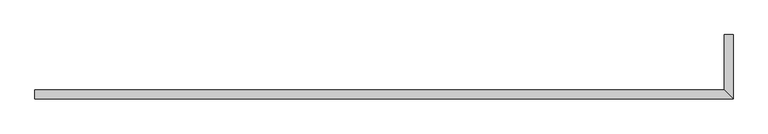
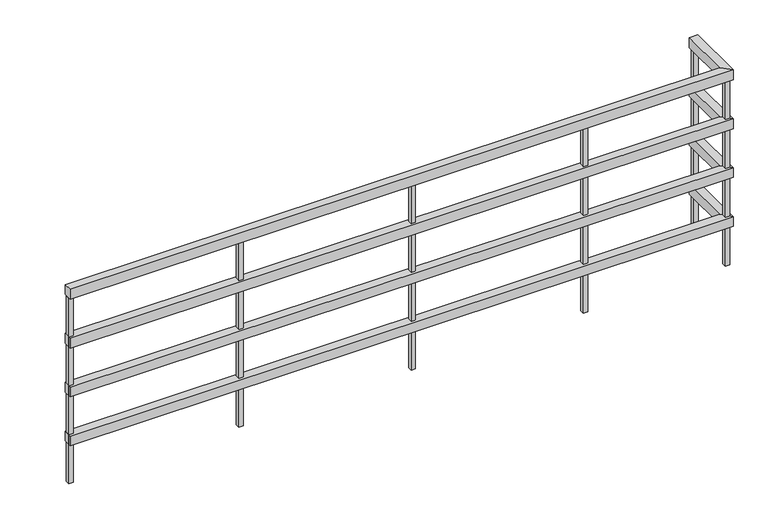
"""IFC4 building model written with IfcOpenShell, lengths in millimetres: railing geometry, RL780-금속재 난간."""

from ifc_helpers import new_model, si_unit, frame, origin, place, context, project, spatial, polyline, outline, extrude, faceted_brep, source, transform, mapped, element, save


def railing_9e2b65a3(model_context):
    return source(origin(), model_context, "Body", "SolidModel", [
        faceted_brep([(15250.0, -125.0, 1250.0), (15250.0, -125.0, 1190.0), (15250.0, -175.0, 1190.0), (15250.0, -175.0, 1250.0), (19100.0, -175.0, 1190.0), (19100.0, -175.0, 1250.0), (19050.0, -125.0, 1250.0), (19050.0, 180.0, 1250.0), (19100.0, 180.0, 1250.0), (19100.0, 180.0, 1190.0), (19050.0, 180.0, 1190.0), (19050.0, -125.0, 1190.0)], [[[0, 1, 2, 3]], [[3, 2, 4, 5]], [[0, 3, 5, 6]], [[7, 8, 9, 10]], [[5, 4, 9, 8]], [[6, 5, 8, 7]], [[1, 0, 6, 11]], [[2, 1, 11, 4]], [[11, 6, 7, 10]], [[4, 11, 10, 9]]]),
        faceted_brep([(15250.0, -125.0, 950.0), (15250.0, -125.0, 890.0), (15250.0, -175.0, 890.0), (15250.0, -175.0, 950.0), (19100.0, -175.0, 890.0), (19100.0, -175.0, 950.0), (19050.0, -125.0, 950.0), (19050.0, 180.0, 950.0), (19100.0, 180.0, 950.0), (19100.0, 180.0, 890.0), (19050.0, 180.0, 890.0), (19050.0, -125.0, 890.0)], [[[0, 1, 2, 3]], [[3, 2, 4, 5]], [[0, 3, 5, 6]], [[7, 8, 9, 10]], [[5, 4, 9, 8]], [[6, 5, 8, 7]], [[1, 0, 6, 11]], [[2, 1, 11, 4]], [[11, 6, 7, 10]], [[4, 11, 10, 9]]]),
        faceted_brep([(15250.0, -125.0, 650.0), (15250.0, -125.0, 590.0), (15250.0, -175.0, 590.0), (15250.0, -175.0, 650.0), (19100.0, -175.0, 590.0), (19100.0, -175.0, 650.0), (19050.0, -125.0, 650.0), (19050.0, 180.0, 650.0), (19100.0, 180.0, 650.0), (19100.0, 180.0, 590.0), (19050.0, 180.0, 590.0), (19050.0, -125.0, 590.0)], [[[0, 1, 2, 3]], [[3, 2, 4, 5]], [[0, 3, 5, 6]], [[7, 8, 9, 10]], [[5, 4, 9, 8]], [[6, 5, 8, 7]], [[1, 0, 6, 11]], [[2, 1, 11, 4]], [[11, 6, 7, 10]], [[4, 11, 10, 9]]]),
        faceted_brep([(15250.0, -125.0, 350.0), (15250.0, -125.0, 290.0), (15250.0, -175.0, 290.0), (15250.0, -175.0, 350.0), (19100.0, -175.0, 290.0), (19100.0, -175.0, 350.0), (19050.0, -125.0, 350.0), (19050.0, 180.0, 350.0), (19100.0, 180.0, 350.0), (19100.0, 180.0, 290.0), (19050.0, 180.0, 290.0), (19050.0, -125.0, 290.0)], [[[0, 1, 2, 3]], [[3, 2, 4, 5]], [[0, 3, 5, 6]], [[7, 8, 9, 10]], [[5, 4, 9, 8]], [[6, 5, 8, 7]], [[1, 0, 6, 11]], [[2, 1, 11, 4]], [[11, 6, 7, 10]], [[4, 11, 10, 9]]]),
        extrude(outline(polyline([(18237.5, -162.5), (18237.5, -137.5), (18262.5, -137.5), (18262.5, -162.5), (18237.5, -162.5)])), frame((0.0, 0.0, 50.0), z_axis=(0.0, 0.0, 1.0), x_axis=(1.0, 0.0, 0.0)), (0.0, 0.0, 1.0), 1140.0),
        extrude(outline(polyline([(17237.5, -162.5), (17237.5, -137.5), (17262.5, -137.5), (17262.5, -162.5), (17237.5, -162.5)])), frame((0.0, 0.0, 50.0), z_axis=(0.0, 0.0, 1.0), x_axis=(1.0, 0.0, 0.0)), (0.0, 0.0, 1.0), 1140.0),
        extrude(outline(polyline([(16237.5, -162.5), (16237.5, -137.5), (16262.5, -137.5), (16262.5, -162.5), (16237.5, -162.5)])), frame((0.0, 0.0, 50.0), z_axis=(0.0, 0.0, 1.0), x_axis=(1.0, 0.0, 0.0)), (0.0, 0.0, 1.0), 1140.0),
        extrude(outline(polyline([(19062.5, -162.5), (19062.5, -137.5), (19087.5, -137.5), (19087.5, -162.5), (19062.5, -162.5)])), frame((0.0, 0.0, 50.0), z_axis=(0.0, 0.0, 1.0), x_axis=(1.0, 0.0, 0.0)), (0.0, 0.0, 1.0), 1140.0),
        extrude(outline(polyline([(19087.5, 155.0), (19062.5, 155.0), (19062.5, 180.0), (19087.5, 180.0), (19087.5, 155.0)])), frame((0.0, 0.0, 50.0), z_axis=(0.0, 0.0, 1.0), x_axis=(1.0, 0.0, 0.0)), (0.0, 0.0, 1.0), 1140.0),
        extrude(outline(polyline([(15250.0, -162.5), (15250.0, -137.5), (15275.0, -137.5), (15275.0, -162.5), (15250.0, -162.5)])), frame((0.0, 0.0, 50.0), z_axis=(0.0, 0.0, 1.0), x_axis=(1.0, 0.0, 0.0)), (0.0, 0.0, 1.0), 1140.0),
    ])


if __name__ == "__main__":
    model = new_model("IFC4")
    model_context = context("Model", 3, world=origin())
    ifc_project = project(units=[si_unit("LENGTHUNIT", "METRE", prefix="MILLI")], contexts=[model_context])
    site = spatial("IfcSite", under=ifc_project)
    building = spatial("IfcBuilding", under=site)
    placement = place(None, origin())
    railing_shape = railing_9e2b65a3(model_context)
    element("IfcRailing", 1, ObjectType="RL780-금속재 난간", at=placement, inside=building, context=model_context, shape_type="MappedRepresentation", body=[
        mapped(railing_shape, transform((0.0, 0.0, 0.0), x_axis=(1.0, 0.0, 0.0), y_axis=(0.0, 1.0, 0.0), z_axis=(0.0, 0.0, 1.0))),
    ])
    save(model, "model.ifc")
